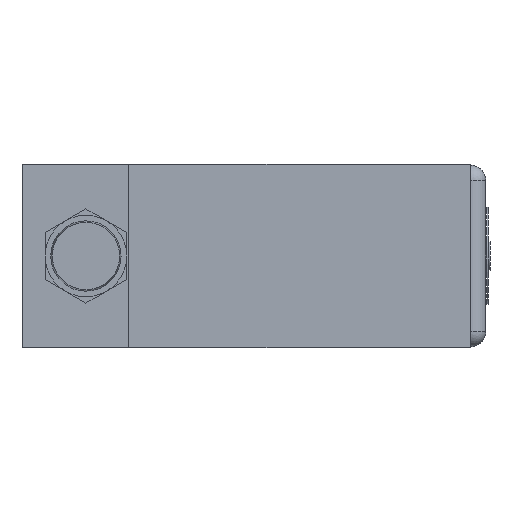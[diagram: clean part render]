
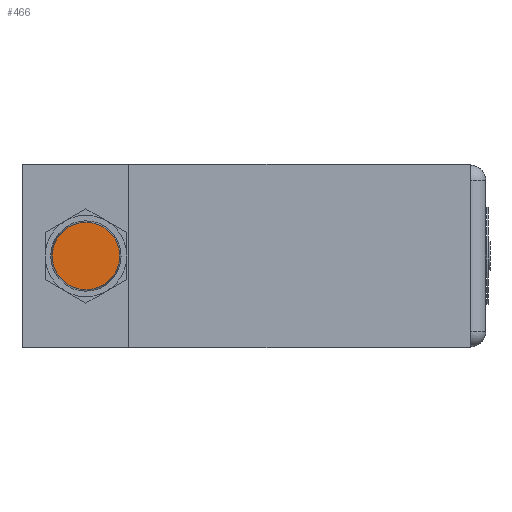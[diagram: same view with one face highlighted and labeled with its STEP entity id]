
A CAD part, left-side view. The second image highlights one B-rep face of the part: STEP entity #466.
In plain terms, the highlighted planar face has unit normal (-1, 0, 0).
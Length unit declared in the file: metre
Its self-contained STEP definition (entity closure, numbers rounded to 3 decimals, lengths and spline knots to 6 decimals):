
#466=ADVANCED_FACE('0:2234',(#835),#836,.F.);
#835=FACE_OUTER_BOUND('',#1148,.T.);
#836=PLANE('',#1149);
#1148=EDGE_LOOP('',(#1779,#1780));
#1149=AXIS2_PLACEMENT_3D('',#1781,#1782,#1783);
#1779=ORIENTED_EDGE('',*,*,#2263,.F.);
#1780=ORIENTED_EDGE('',*,*,#2236,.F.);
#1781=CARTESIAN_POINT('',(-0.0069,0.042088,0.00165));
#1782=DIRECTION('',(1.0,0.,0.));
#1783=DIRECTION('',(0.,-1.0,0.0));
#2236=EDGE_CURVE('0:2261',#2929,#2932,#2933,.T.);
#2263=EDGE_CURVE('0:2261',#2932,#2929,#2971,.T.);
#2929=VERTEX_POINT('',#3731);
#2932=VERTEX_POINT('NONE',#3735);
#2933=CIRCLE('',#3736,0.0033);
#2971=CIRCLE('',#3781,0.0033);
#3731=CARTESIAN_POINT('',(-0.0069,0.04088,-0.002858));
#3735=CARTESIAN_POINT('',(-0.0069,0.03758,0.002858));
#3736=AXIS2_PLACEMENT_3D('',#4335,#4336,#4337);
#3781=AXIS2_PLACEMENT_3D('',#4381,#4382,#4383);
#4335=CARTESIAN_POINT('',(-0.0069,0.03923,0.));
#4336=DIRECTION('',(1.0,0.,0.));
#4337=DIRECTION('',(0.,0.5,-0.866));
#4381=CARTESIAN_POINT('',(-0.0069,0.03923,0.));
#4382=DIRECTION('',(1.0,0.,0.));
#4383=DIRECTION('',(0.,0.5,-0.866));
